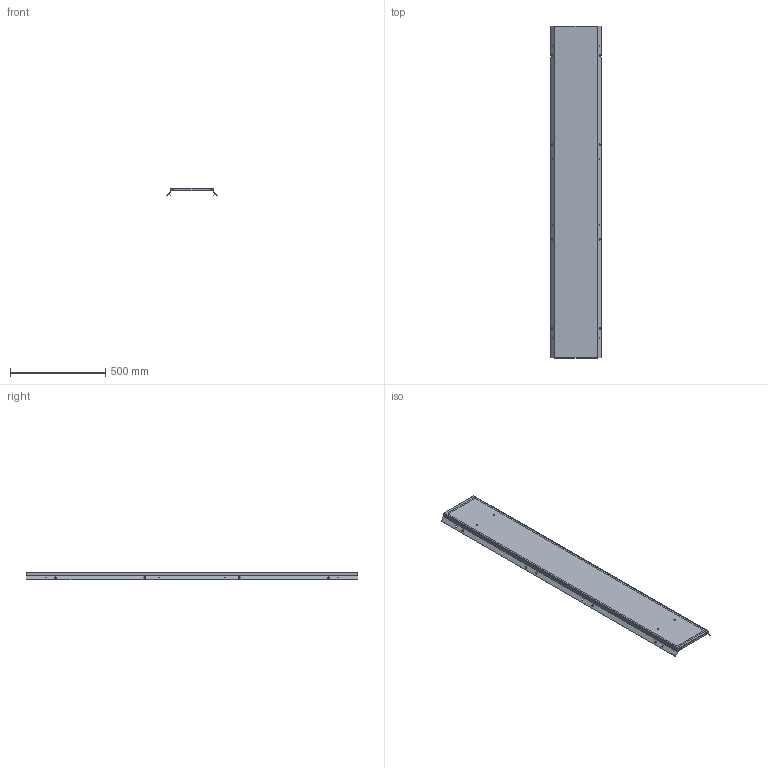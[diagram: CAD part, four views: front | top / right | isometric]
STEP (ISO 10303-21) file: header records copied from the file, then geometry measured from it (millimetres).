
FILE_DESCRIPTION (( 'STEP AP203' ), '1' );
FILE_NAME ('MA1.200.030618.10.00 AleSta-PR183 Ïàíåëü çàäíÿÿ, äëÿ øêàôîâ ALESTA, 1800 x 300.STEP', '2025-02-19T15:06:12', ( '' ), ( '' ), 'SwSTEP 2.0', 'SolidWorks 2021', '' );
FILE_SCHEMA (( 'CONFIG_CONTROL_DESIGN' ));
Length unit declared in the file: millimetre
Products named in the file (6): Âèíò ñàìîíàðåçàþùèé ñ ïîòàéíîé ãîëîâêîé Ì5x16 DIN 7500 M TORX, êëàññ ïðî÷íîñòè 8.8, îöèíêîâàííàÿ ñòàëü_Œ5å16; Óïëîòíèòåëü ïàíåëè íèæíåé_   ‚=1800; Øïèëüêà Ì6õ12_˜¯¨«ìª  Œ6å12; MA1.200.060620.11.00 Ïàíåëü çàäíÿÿ, äëÿ øêàôîâ AleSta, 2000x600_1800å300; MA1.200.030618.10.00 AleSta-PR183  Ïàíåëü çàäíÿÿ, äëÿ øêàôîâ ALESTA, 1800 x 300; MA1.200.060620.11.01 Ïîëîòíî çàäíåé ïàíåëè 2000õ600_1800å300
Assembly tree (15 placements, depth 3):
  MA1.200.030618.10.00 AleSta-PR183  Ïàíåëü çàäíÿÿ, äëÿ øêàôîâ ALESTA, 1800 x 300
    MA1.200.060620.11.00 Ïàíåëü çàäíÿÿ, äëÿ øêàôîâ AleSta, 2000x600_1800å300
      MA1.200.060620.11.01 Ïîëîòíî çàäíåé ïàíåëè 2000õ600_1800å300
      Óïëîòíèòåëü ïàíåëè íèæíåé_   ‚=1800
      Øïèëüêà Ì6õ12_˜¯¨«ìª  Œ6å12  x4
    Âèíò ñàìîíàðåçàþùèé ñ ïîòàéíîé ãîëîâêîé Ì5x16 DIN 7500 M TORX, êëàññ ïðî÷íîñòè 8.8, îöèíêîâàííàÿ ñòàëü_Œ5å16  x8
Bounding box: 265.31 x 1745 x 41.7 mm (x, y, z)
Volume: 808962.7 mm3; surface area: 1253068.5 mm2
Topology: 14 solids, 14 shells, 544 faces, 1352 edges, 864 vertices
Faces by surface type: cylinder 304, plane 184, cone 40, bspline 8, torus 8
Entity records: 7885 total; most frequent: CARTESIAN_POINT 1623, DIRECTION 1165, ORIENTED_EDGE 1074, EDGE_CURVE 537, AXIS2_PLACEMENT_3D 424, VERTEX_POINT 332, VECTOR 317, LINE 317
